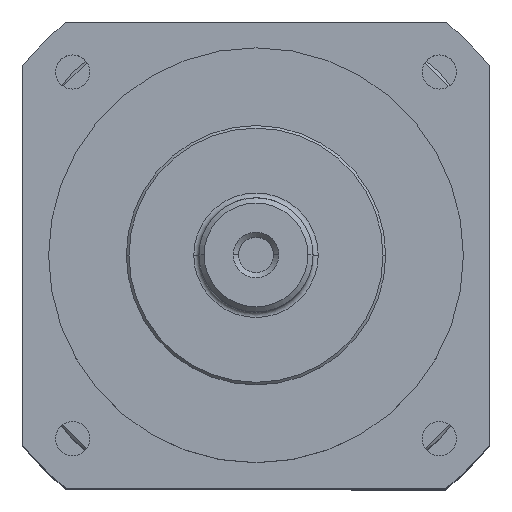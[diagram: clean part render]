
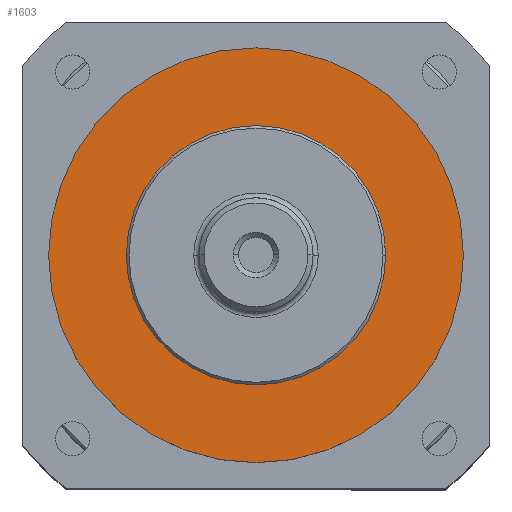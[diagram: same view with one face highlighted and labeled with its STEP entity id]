
A CAD part, top view. The second image highlights one B-rep face of the part: STEP entity #1603.
In plain terms, the highlighted planar face has unit normal (0, 0, 1).
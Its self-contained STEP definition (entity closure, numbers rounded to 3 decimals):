
#22 = ORIENTED_EDGE ( 'NONE', *, *, #1634, .F. ) ;
#66 = AXIS2_PLACEMENT_3D ( 'NONE', #1768, #1368, #2176 ) ;
#144 = DIRECTION ( 'NONE',  ( 1., 0., 0. ) ) ;
#192 = DIRECTION ( 'NONE',  ( 0., 0., 1. ) ) ;
#460 = DIRECTION ( 'NONE',  ( 0., 0., 1. ) ) ;
#488 = DIRECTION ( 'NONE',  ( 1., 0., 0. ) ) ;
#574 = CIRCLE ( 'NONE', #2302, 25. ) ;
#724 = EDGE_LOOP ( 'NONE', ( #4123, #1070 ) ) ;
#737 = CIRCLE ( 'NONE', #2818, 40. ) ;
#792 = CIRCLE ( 'NONE', #66, 40. ) ;
#861 = CARTESIAN_POINT ( 'NONE',  ( 0., 0., 18. ) ) ;
#909 = VERTEX_POINT ( 'NONE', #3063 ) ;
#1007 = CARTESIAN_POINT ( 'NONE',  ( -25., 0., 18. ) ) ;
#1070 = ORIENTED_EDGE ( 'NONE', *, *, #2918, .T. ) ;
#1304 = CARTESIAN_POINT ( 'NONE',  ( 0., 0., 18. ) ) ;
#1368 = DIRECTION ( 'NONE',  ( 0., 0., 1. ) ) ;
#1538 = DIRECTION ( 'NONE',  ( 0., 0., 1. ) ) ;
#1603 = ADVANCED_FACE ( 'NONE', ( #5009, #2419 ), #1861, .T. ) ;
#1634 = EDGE_CURVE ( 'NONE', #3946, #2421, #574, .T. ) ;
#1768 = CARTESIAN_POINT ( 'NONE',  ( 0., 0., 18. ) ) ;
#1861 = PLANE ( 'NONE',  #3741 ) ;
#2176 = DIRECTION ( 'NONE',  ( 1., 0., 0. ) ) ;
#2203 = CARTESIAN_POINT ( 'NONE',  ( 40., 0., 18. ) ) ;
#2302 = AXIS2_PLACEMENT_3D ( 'NONE', #4970, #1538, #3689 ) ;
#2419 = FACE_BOUND ( 'NONE', #5548, .T. ) ;
#2421 = VERTEX_POINT ( 'NONE', #1007 ) ;
#2534 = AXIS2_PLACEMENT_3D ( 'NONE', #861, #460, #3443 ) ;
#2695 = CARTESIAN_POINT ( 'NONE',  ( 0., 0., 18. ) ) ;
#2744 = ORIENTED_EDGE ( 'NONE', *, *, #4029, .F. ) ;
#2818 = AXIS2_PLACEMENT_3D ( 'NONE', #1304, #4752, #488 ) ;
#2917 = VERTEX_POINT ( 'NONE', #2203 ) ;
#2918 = EDGE_CURVE ( 'NONE', #2917, #909, #737, .T. ) ;
#3019 = CARTESIAN_POINT ( 'NONE',  ( 25., 0., 18. ) ) ;
#3063 = CARTESIAN_POINT ( 'NONE',  ( -40., 0., 18. ) ) ;
#3443 = DIRECTION ( 'NONE',  ( 1., 0., 0. ) ) ;
#3549 = EDGE_CURVE ( 'NONE', #909, #2917, #792, .T. ) ;
#3689 = DIRECTION ( 'NONE',  ( 1., 0., 0. ) ) ;
#3741 = AXIS2_PLACEMENT_3D ( 'NONE', #2695, #192, #144 ) ;
#3946 = VERTEX_POINT ( 'NONE', #3019 ) ;
#4029 = EDGE_CURVE ( 'NONE', #2421, #3946, #5174, .T. ) ;
#4123 = ORIENTED_EDGE ( 'NONE', *, *, #3549, .T. ) ;
#4752 = DIRECTION ( 'NONE',  ( 0., 0., 1. ) ) ;
#4970 = CARTESIAN_POINT ( 'NONE',  ( 0., 0., 18. ) ) ;
#5009 = FACE_OUTER_BOUND ( 'NONE', #724, .T. ) ;
#5174 = CIRCLE ( 'NONE', #2534, 25. ) ;
#5548 = EDGE_LOOP ( 'NONE', ( #2744, #22 ) ) ;
